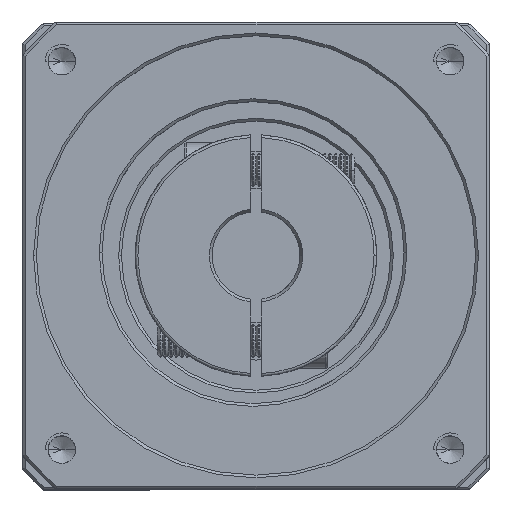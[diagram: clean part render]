
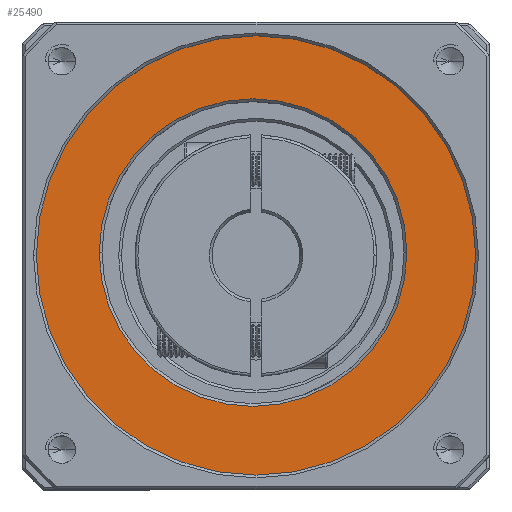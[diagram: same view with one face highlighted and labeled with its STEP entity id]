
A CAD part, top view. The second image highlights one B-rep face of the part: STEP entity #25490.
In plain terms, the highlighted planar face has unit normal (0, 0, 1).
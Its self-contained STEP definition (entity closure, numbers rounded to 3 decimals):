
#782 = CIRCLE ( 'NONE', #64752, 40. ) ;
#2688 = AXIS2_PLACEMENT_3D ( 'NONE', #17601, #80307, #26586 ) ;
#8454 = ORIENTED_EDGE ( 'NONE', *, *, #68553, .T. ) ;
#15067 = FACE_BOUND ( 'NONE', #112984, .T. ) ;
#16187 = EDGE_LOOP ( 'NONE', ( #33593, #50651 ) ) ;
#16208 = DIRECTION ( 'NONE',  ( 0., 0., -1. ) ) ;
#17601 = CARTESIAN_POINT ( 'NONE',  ( -88.893, 24.356, 6.287 ) ) ;
#18091 = EDGE_CURVE ( 'NONE', #65826, #34732, #58457, .T. ) ;
#20489 = DIRECTION ( 'NONE',  ( 0., 0., 1. ) ) ;
#25490 = ADVANCED_FACE ( 'NONE', ( #86559, #15067 ), #97959, .T. ) ;
#26586 = DIRECTION ( 'NONE',  ( 1., 0., 0. ) ) ;
#30244 = CIRCLE ( 'NONE', #57775, 40. ) ;
#33593 = ORIENTED_EDGE ( 'NONE', *, *, #69976, .T. ) ;
#34317 = CARTESIAN_POINT ( 'NONE',  ( -61.435, 24.89, 6.287 ) ) ;
#34732 = VERTEX_POINT ( 'NONE', #34317 ) ;
#35352 = CARTESIAN_POINT ( 'NONE',  ( -88.893, 24.356, 6.287 ) ) ;
#42918 = AXIS2_PLACEMENT_3D ( 'NONE', #69952, #16208, #78915 ) ;
#44357 = DIRECTION ( 'NONE',  ( 1., 0., 0. ) ) ;
#48913 = DIRECTION ( 'NONE',  ( 0., 0., -1. ) ) ;
#50651 = ORIENTED_EDGE ( 'NONE', *, *, #97922, .T. ) ;
#55806 = CIRCLE ( 'NONE', #105042, 28. ) ;
#57775 = AXIS2_PLACEMENT_3D ( 'NONE', #35352, #98111, #44357 ) ;
#58457 = CIRCLE ( 'NONE', #42918, 28. ) ;
#64752 = AXIS2_PLACEMENT_3D ( 'NONE', #74226, #20489, #83243 ) ;
#65826 = VERTEX_POINT ( 'NONE', #98897 ) ;
#68553 = EDGE_CURVE ( 'NONE', #34732, #65826, #55806, .T. ) ;
#69952 = CARTESIAN_POINT ( 'NONE',  ( -89.435, 24.89, 6.287 ) ) ;
#69976 = EDGE_CURVE ( 'NONE', #107788, #101381, #782, .T. ) ;
#74226 = CARTESIAN_POINT ( 'NONE',  ( -88.893, 24.356, 6.287 ) ) ;
#78915 = DIRECTION ( 'NONE',  ( 1., 0., 0. ) ) ;
#80307 = DIRECTION ( 'NONE',  ( 0., 0., 1. ) ) ;
#83243 = DIRECTION ( 'NONE',  ( 1., 0., 0. ) ) ;
#84887 = CARTESIAN_POINT ( 'NONE',  ( -128.893, 24.356, 6.287 ) ) ;
#86559 = FACE_OUTER_BOUND ( 'NONE', #16187, .T. ) ;
#93236 = CARTESIAN_POINT ( 'NONE',  ( -48.893, 24.356, 6.287 ) ) ;
#97922 = EDGE_CURVE ( 'NONE', #101381, #107788, #30244, .T. ) ;
#97959 = PLANE ( 'NONE',  #2688 ) ;
#98111 = DIRECTION ( 'NONE',  ( 0., 0., 1. ) ) ;
#98897 = CARTESIAN_POINT ( 'NONE',  ( -117.435, 24.89, 6.287 ) ) ;
#101381 = VERTEX_POINT ( 'NONE', #84887 ) ;
#102675 = CARTESIAN_POINT ( 'NONE',  ( -89.435, 24.89, 6.287 ) ) ;
#105042 = AXIS2_PLACEMENT_3D ( 'NONE', #102675, #48913, #111707 ) ;
#107788 = VERTEX_POINT ( 'NONE', #93236 ) ;
#111707 = DIRECTION ( 'NONE',  ( 1., 0., 0. ) ) ;
#112984 = EDGE_LOOP ( 'NONE', ( #8454, #116166 ) ) ;
#116166 = ORIENTED_EDGE ( 'NONE', *, *, #18091, .T. ) ;
